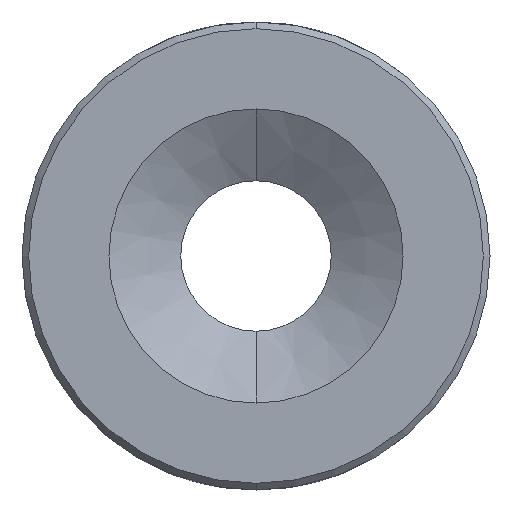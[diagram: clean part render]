
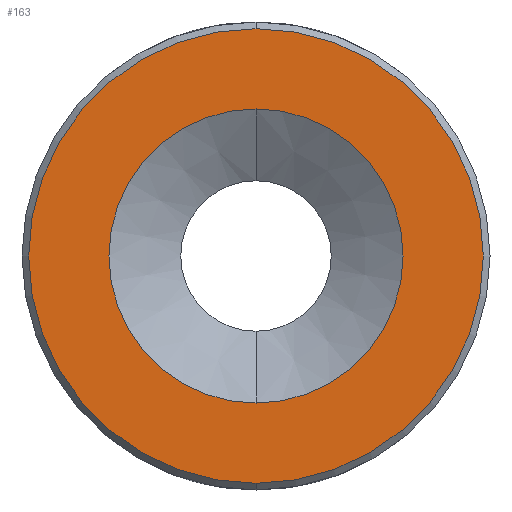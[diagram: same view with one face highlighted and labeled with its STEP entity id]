
A CAD part, front view. The second image highlights one B-rep face of the part: STEP entity #163.
In plain terms, the highlighted planar face has unit normal (0, -1, 0).
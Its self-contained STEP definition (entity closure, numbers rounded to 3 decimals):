
#49 = VERTEX_POINT ( 'NONE', #2001 ) ;
#93 = VERTEX_POINT ( 'NONE', #1218 ) ;
#163 = ADVANCED_FACE ( 'NONE', ( #1701, #2521 ), #1625, .F. ) ;
#265 = DIRECTION ( 'NONE',  ( 0., -1., 0. ) ) ;
#302 = AXIS2_PLACEMENT_3D ( 'NONE', #2157, #265, #1142 ) ;
#378 = EDGE_CURVE ( 'NONE', #2216, #1599, #2071, .T. ) ;
#464 = DIRECTION ( 'NONE',  ( 0., -1., 0. ) ) ;
#557 = DIRECTION ( 'NONE',  ( 0., 1., 0. ) ) ;
#596 = AXIS2_PLACEMENT_3D ( 'NONE', #2357, #464, #1337 ) ;
#605 = CARTESIAN_POINT ( 'NONE',  ( 0., 0., 0. ) ) ;
#661 = CIRCLE ( 'NONE', #2207, 4.4 ) ;
#744 = CARTESIAN_POINT ( 'NONE',  ( 0., 0., 0. ) ) ;
#830 = EDGE_CURVE ( 'NONE', #49, #93, #1865, .T. ) ;
#983 = EDGE_LOOP ( 'NONE', ( #2037, #2061 ) ) ;
#1142 = DIRECTION ( 'NONE',  ( 0., 0., -1. ) ) ;
#1218 = CARTESIAN_POINT ( 'NONE',  ( 0., 0., -4.4 ) ) ;
#1337 = DIRECTION ( 'NONE',  ( 0., 0., 1. ) ) ;
#1427 = DIRECTION ( 'NONE',  ( 0., 0., 1. ) ) ;
#1432 = CARTESIAN_POINT ( 'NONE',  ( 0., 0., 6.8 ) ) ;
#1470 = DIRECTION ( 'NONE',  ( 0., -1., 0. ) ) ;
#1576 = EDGE_CURVE ( 'NONE', #1599, #2216, #1792, .T. ) ;
#1585 = EDGE_LOOP ( 'NONE', ( #2075, #2213 ) ) ;
#1595 = DIRECTION ( 'NONE',  ( 0., -1., 0. ) ) ;
#1599 = VERTEX_POINT ( 'NONE', #2151 ) ;
#1625 = PLANE ( 'NONE',  #1764 ) ;
#1701 = FACE_OUTER_BOUND ( 'NONE', #983, .T. ) ;
#1720 = AXIS2_PLACEMENT_3D ( 'NONE', #605, #1470, #2284 ) ;
#1764 = AXIS2_PLACEMENT_3D ( 'NONE', #2450, #557, #1427 ) ;
#1792 = CIRCLE ( 'NONE', #596, 6.8 ) ;
#1865 = CIRCLE ( 'NONE', #302, 4.4 ) ;
#2001 = CARTESIAN_POINT ( 'NONE',  ( 0., 0., 4.4 ) ) ;
#2037 = ORIENTED_EDGE ( 'NONE', *, *, #378, .T. ) ;
#2061 = ORIENTED_EDGE ( 'NONE', *, *, #1576, .T. ) ;
#2071 = CIRCLE ( 'NONE', #1720, 6.8 ) ;
#2075 = ORIENTED_EDGE ( 'NONE', *, *, #2681, .F. ) ;
#2151 = CARTESIAN_POINT ( 'NONE',  ( 0., 0., -6.8 ) ) ;
#2157 = CARTESIAN_POINT ( 'NONE',  ( 0., 0., 0. ) ) ;
#2207 = AXIS2_PLACEMENT_3D ( 'NONE', #744, #1595, #2417 ) ;
#2213 = ORIENTED_EDGE ( 'NONE', *, *, #830, .F. ) ;
#2216 = VERTEX_POINT ( 'NONE', #1432 ) ;
#2284 = DIRECTION ( 'NONE',  ( 0., 0., 1. ) ) ;
#2357 = CARTESIAN_POINT ( 'NONE',  ( 0., 0., 0. ) ) ;
#2417 = DIRECTION ( 'NONE',  ( 0., 0., -1. ) ) ;
#2450 = CARTESIAN_POINT ( 'NONE',  ( 0., 0., 0. ) ) ;
#2521 = FACE_BOUND ( 'NONE', #1585, .T. ) ;
#2681 = EDGE_CURVE ( 'NONE', #93, #49, #661, .T. ) ;
